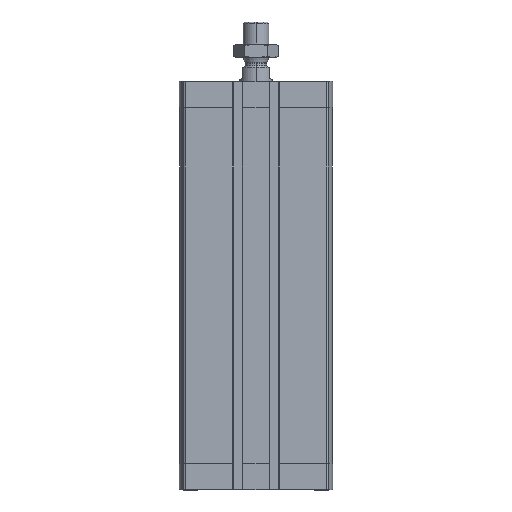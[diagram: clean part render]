
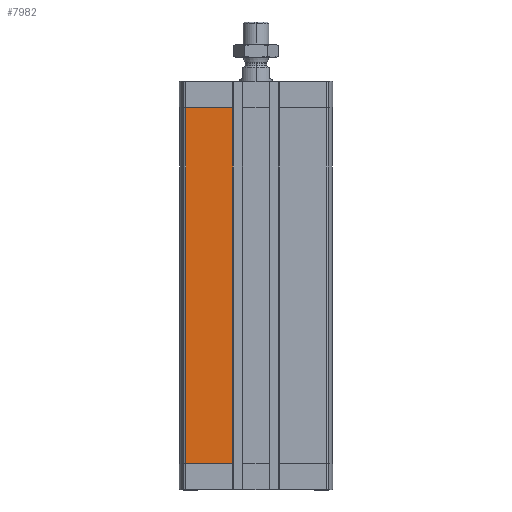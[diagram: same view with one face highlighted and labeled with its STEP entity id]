
A CAD part, left-side view. The second image highlights one B-rep face of the part: STEP entity #7982.
In plain terms, the highlighted planar face has unit normal (-1, 0, 0).
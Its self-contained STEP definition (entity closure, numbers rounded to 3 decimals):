
#119 = DIRECTION ( 'NONE',  ( 0., 0., 1. ) ) ;
#503 = CARTESIAN_POINT ( 'NONE',  ( -47.5, 43.743, -237.5 ) ) ;
#1481 = DIRECTION ( 'NONE',  ( 0., 1., 0. ) ) ;
#2067 = LINE ( 'NONE', #6032, #14890 ) ;
#2259 = CARTESIAN_POINT ( 'NONE',  ( -47.5, 14.3, -16.5 ) ) ;
#3869 = LINE ( 'NONE', #503, #12642 ) ;
#4969 = EDGE_CURVE ( 'NONE', #10926, #12701, #3869, .T. ) ;
#5086 = ORIENTED_EDGE ( 'NONE', *, *, #4969, .T. ) ;
#5096 = PLANE ( 'NONE',  #13171 ) ;
#5212 = ORIENTED_EDGE ( 'NONE', *, *, #12072, .T. ) ;
#5275 = CARTESIAN_POINT ( 'NONE',  ( -47.5, 0., -16.5 ) ) ;
#5438 = ORIENTED_EDGE ( 'NONE', *, *, #11856, .T. ) ;
#5559 = LINE ( 'NONE', #9867, #12156 ) ;
#6032 = CARTESIAN_POINT ( 'NONE',  ( -47.5, 43.743, -237.5 ) ) ;
#6794 = DIRECTION ( 'NONE',  ( 0., 0., -1. ) ) ;
#7404 = EDGE_CURVE ( 'NONE', #7553, #11413, #5559, .T. ) ;
#7553 = VERTEX_POINT ( 'NONE', #10185 ) ;
#7620 = ORIENTED_EDGE ( 'NONE', *, *, #7404, .T. ) ;
#7628 = DIRECTION ( 'NONE',  ( -1., 0., 0. ) ) ;
#7982 = ADVANCED_FACE ( 'NONE', ( #10600 ), #5096, .T. ) ;
#8683 = CARTESIAN_POINT ( 'NONE',  ( -47.5, 43.743, -16.5 ) ) ;
#9309 = VECTOR ( 'NONE', #1481, 1000. ) ;
#9867 = CARTESIAN_POINT ( 'NONE',  ( -47.5, 14.3, -237.5 ) ) ;
#10185 = CARTESIAN_POINT ( 'NONE',  ( -47.5, 14.3, -237.5 ) ) ;
#10600 = FACE_OUTER_BOUND ( 'NONE', #15677, .T. ) ;
#10926 = VERTEX_POINT ( 'NONE', #8683 ) ;
#11044 = DIRECTION ( 'NONE',  ( 0., -1., 0. ) ) ;
#11413 = VERTEX_POINT ( 'NONE', #2259 ) ;
#11856 = EDGE_CURVE ( 'NONE', #12701, #7553, #2067, .T. ) ;
#12072 = EDGE_CURVE ( 'NONE', #11413, #10926, #15462, .T. ) ;
#12156 = VECTOR ( 'NONE', #15904, 1000. ) ;
#12642 = VECTOR ( 'NONE', #6794, 1000. ) ;
#12701 = VERTEX_POINT ( 'NONE', #14898 ) ;
#13171 = AXIS2_PLACEMENT_3D ( 'NONE', #14995, #7628, #119 ) ;
#14890 = VECTOR ( 'NONE', #11044, 1000. ) ;
#14898 = CARTESIAN_POINT ( 'NONE',  ( -47.5, 43.743, -237.5 ) ) ;
#14995 = CARTESIAN_POINT ( 'NONE',  ( -47.5, 43.743, -237.5 ) ) ;
#15462 = LINE ( 'NONE', #5275, #9309 ) ;
#15677 = EDGE_LOOP ( 'NONE', ( #5438, #7620, #5212, #5086 ) ) ;
#15904 = DIRECTION ( 'NONE',  ( 0., 0., 1. ) ) ;
